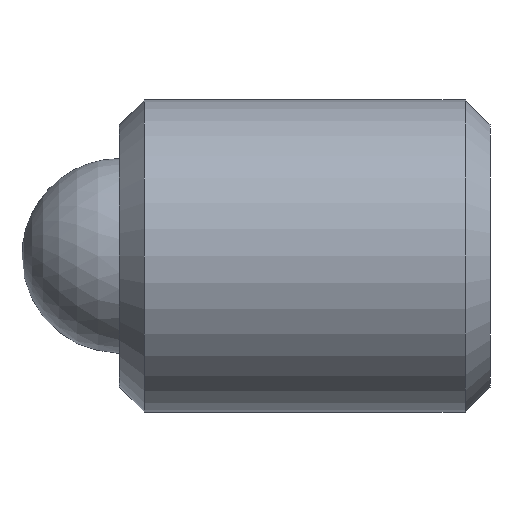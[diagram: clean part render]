
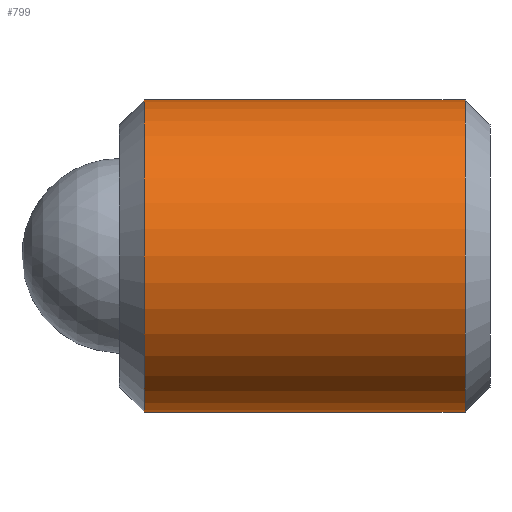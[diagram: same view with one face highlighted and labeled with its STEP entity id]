
A CAD part, front view. The second image highlights one B-rep face of the part: STEP entity #799.
In plain terms, the highlighted cylindrical face has radius 3.175 mm (diameter 6.35 mm), a partial arc.
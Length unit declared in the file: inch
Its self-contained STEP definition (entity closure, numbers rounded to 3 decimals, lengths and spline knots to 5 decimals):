
#30 = EDGE_CURVE ( 'NONE', #713, #144, #304, .T. ) ;
#67 = EDGE_CURVE ( 'NONE', #456, #181, #798, .T. ) ;
#71 = EDGE_CURVE ( 'NONE', #713, #456, #189, .T. ) ;
#120 = VECTOR ( 'NONE', #745, 39.37008 ) ;
#144 = VERTEX_POINT ( 'NONE', #513 ) ;
#176 = CARTESIAN_POINT ( 'NONE',  ( 0.02, 0., 0.125 ) ) ;
#181 = VERTEX_POINT ( 'NONE', #176 ) ;
#189 = CIRCLE ( 'NONE', #579, 0.125 ) ;
#219 = DIRECTION ( 'NONE',  ( -1., 0., 0. ) ) ;
#220 = EDGE_LOOP ( 'NONE', ( #792, #767, #515, #408 ) ) ;
#249 = CYLINDRICAL_SURFACE ( 'NONE', #459, 0.125 ) ;
#277 = CARTESIAN_POINT ( 'NONE',  ( 0.27688, 0., -0.125 ) ) ;
#293 = DIRECTION ( 'NONE',  ( 1., 0., 0. ) ) ;
#304 = LINE ( 'NONE', #321, #120 ) ;
#321 = CARTESIAN_POINT ( 'NONE',  ( 0.29688, 0., -0.125 ) ) ;
#408 = ORIENTED_EDGE ( 'NONE', *, *, #916, .T. ) ;
#412 = CIRCLE ( 'NONE', #550, 0.125 ) ;
#456 = VERTEX_POINT ( 'NONE', #690 ) ;
#459 = AXIS2_PLACEMENT_3D ( 'NONE', #906, #219, #499 ) ;
#461 = CARTESIAN_POINT ( 'NONE',  ( 0.29688, 0., 0.125 ) ) ;
#499 = DIRECTION ( 'NONE',  ( 0., 0., 1. ) ) ;
#513 = CARTESIAN_POINT ( 'NONE',  ( 0.02, 0., -0.125 ) ) ;
#515 = ORIENTED_EDGE ( 'NONE', *, *, #67, .T. ) ;
#543 = DIRECTION ( 'NONE',  ( -1., 0., 0. ) ) ;
#550 = AXIS2_PLACEMENT_3D ( 'NONE', #721, #293, #781 ) ;
#579 = AXIS2_PLACEMENT_3D ( 'NONE', #710, #842, #905 ) ;
#690 = CARTESIAN_POINT ( 'NONE',  ( 0.27688, 0., 0.125 ) ) ;
#710 = CARTESIAN_POINT ( 'NONE',  ( 0.27688, 0., 0. ) ) ;
#713 = VERTEX_POINT ( 'NONE', #277 ) ;
#717 = FACE_OUTER_BOUND ( 'NONE', #220, .T. ) ;
#721 = CARTESIAN_POINT ( 'NONE',  ( 0.02, 0., 0. ) ) ;
#745 = DIRECTION ( 'NONE',  ( -1., 0., 0. ) ) ;
#767 = ORIENTED_EDGE ( 'NONE', *, *, #71, .T. ) ;
#781 = DIRECTION ( 'NONE',  ( 0., 0., -1. ) ) ;
#787 = VECTOR ( 'NONE', #543, 39.37008 ) ;
#792 = ORIENTED_EDGE ( 'NONE', *, *, #30, .F. ) ;
#798 = LINE ( 'NONE', #461, #787 ) ;
#799 = ADVANCED_FACE ( 'NONE', ( #717 ), #249, .T. ) ;
#842 = DIRECTION ( 'NONE',  ( -1., 0., 0. ) ) ;
#905 = DIRECTION ( 'NONE',  ( 0., 0., -1. ) ) ;
#906 = CARTESIAN_POINT ( 'NONE',  ( 0.29688, 0., 0. ) ) ;
#916 = EDGE_CURVE ( 'NONE', #181, #144, #412, .T. ) ;
